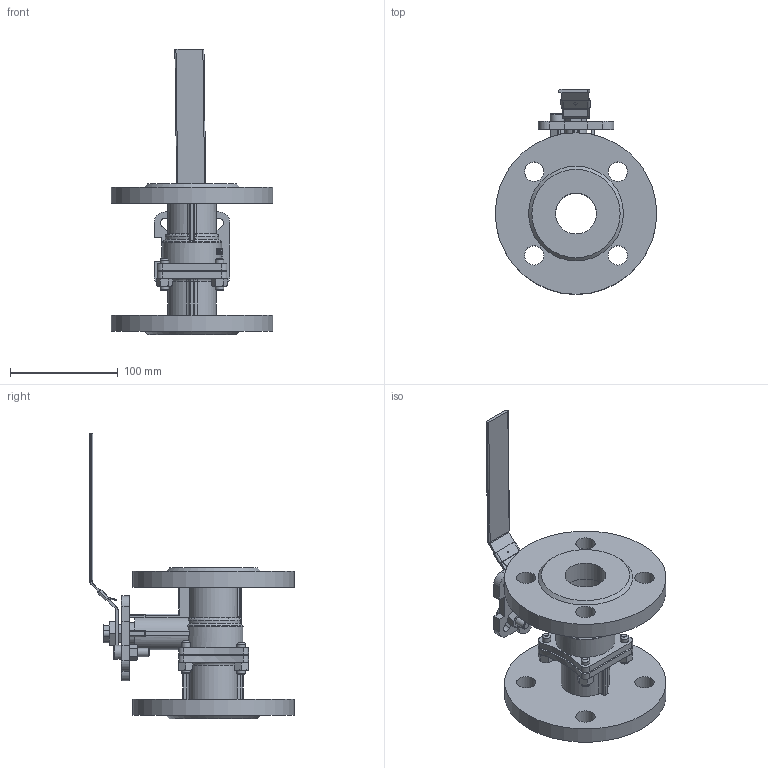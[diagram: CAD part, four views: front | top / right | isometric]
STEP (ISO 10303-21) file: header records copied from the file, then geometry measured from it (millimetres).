
FILE_DESCRIPTION(('STEP AP242'), '1');
FILE_NAME('BV3232P(2pc)-FP-F-ISO-H Êðàí øàðîâîé DN.ru Äó40 Ðó40', '', ('UNSPECIFIED'), ('UNSPECIFIED'), 'C3D Converter', 'C3D Toolkit', '');
FILE_SCHEMA(('AP242_MANAGED_MODEL_BASED_3D_ENGINEERING_MIM_LF { 1 0 10303 442 1 1 4 }'));
Length unit declared in the file: millimetre
Products named in the file (1): BV3232P(2pc)-FP-F-ISO-H
Bounding box: 150 x 190 x 265.04 mm (x, y, z)
Volume: 664697.2 mm3; surface area: 165548.7 mm2
Topology: 1 solids, 1 shells, 672 faces, 1673 edges, 1038 vertices
Faces by surface type: plane 353, cylinder 158, cone 81, bspline 54, torus 18, sphere 8
Full cylindrical faces by diameter (mm): 1 x1, 5 x1, 8 x14, 13 x1, 18 x8, 20 x1, 22 x1, 23 x2, 38 x2, 40 x1, 50 x1, 150 x2
Entity records: 32427 total; most frequent: CARTESIAN_POINT 13972, ORIENTED_EDGE 3212, DIRECTION 2995, EDGE_CURVE 1606, AXIS2_PLACEMENT_3D 1072, VERTEX_POINT 1029, LINE 851, VECTOR 851
